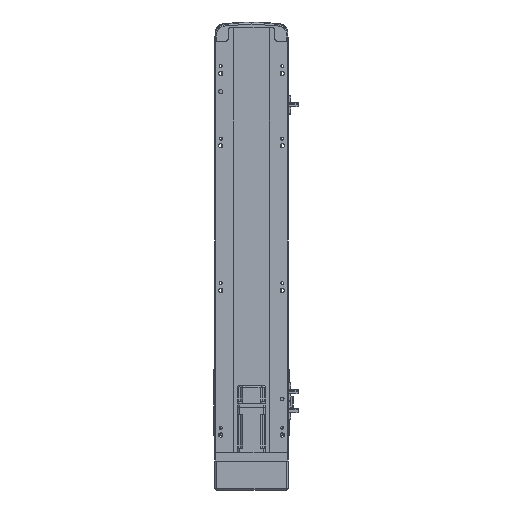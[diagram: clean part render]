
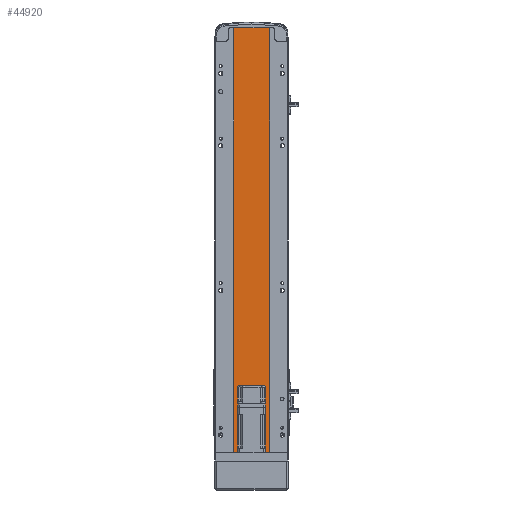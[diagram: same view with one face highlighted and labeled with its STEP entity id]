
A CAD part, front view. The second image highlights one B-rep face of the part: STEP entity #44920.
In plain terms, the highlighted planar face has unit normal (0, -1, 0).
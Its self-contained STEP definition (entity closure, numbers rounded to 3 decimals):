
#6390 = AXIS2_PLACEMENT_3D ( 'NONE', #7950, #12607, #57262 ) ;
#7950 = CARTESIAN_POINT ( 'NONE',  ( 0., 2., 587. ) ) ;
#9701 = VERTEX_POINT ( 'NONE', #11745 ) ;
#11090 = DIRECTION ( 'NONE',  ( 1., 0., 0. ) ) ;
#11745 = CARTESIAN_POINT ( 'NONE',  ( 24.5, 2., 587. ) ) ;
#12607 = DIRECTION ( 'NONE',  ( 0., 1., 0. ) ) ;
#13405 = LINE ( 'NONE', #44433, #57318 ) ;
#14894 = ORIENTED_EDGE ( 'NONE', *, *, #35114, .F. ) ;
#15523 = LINE ( 'NONE', #19402, #21187 ) ;
#15866 = LINE ( 'NONE', #54856, #56984 ) ;
#17096 = CARTESIAN_POINT ( 'NONE',  ( 24.5, 2., 0. ) ) ;
#19402 = CARTESIAN_POINT ( 'NONE',  ( 24.5, 2., 587. ) ) ;
#21187 = VECTOR ( 'NONE', #28580, 1000. ) ;
#22209 = EDGE_CURVE ( 'NONE', #49614, #9701, #13405, .T. ) ;
#22455 = EDGE_CURVE ( 'NONE', #37932, #50375, #41236, .T. ) ;
#24527 = CARTESIAN_POINT ( 'NONE',  ( 0., 2., 0. ) ) ;
#24797 = ORIENTED_EDGE ( 'NONE', *, *, #22455, .T. ) ;
#25802 = EDGE_CURVE ( 'NONE', #49614, #37932, #15866, .T. ) ;
#28580 = DIRECTION ( 'NONE',  ( 0., 0., -1. ) ) ;
#28962 = CARTESIAN_POINT ( 'NONE',  ( -24.5, 2., 587. ) ) ;
#30545 = DIRECTION ( 'NONE',  ( 1., 0., 0. ) ) ;
#32115 = DIRECTION ( 'NONE',  ( 0., 0., -1. ) ) ;
#35114 = EDGE_CURVE ( 'NONE', #9701, #50375, #15523, .T. ) ;
#35967 = EDGE_LOOP ( 'NONE', ( #24797, #14894, #37627, #40663 ) ) ;
#37627 = ORIENTED_EDGE ( 'NONE', *, *, #22209, .F. ) ;
#37932 = VERTEX_POINT ( 'NONE', #51622 ) ;
#38459 = VECTOR ( 'NONE', #30545, 1000. ) ;
#40663 = ORIENTED_EDGE ( 'NONE', *, *, #25802, .T. ) ;
#41236 = LINE ( 'NONE', #24527, #38459 ) ;
#43684 = FACE_OUTER_BOUND ( 'NONE', #35967, .T. ) ;
#44433 = CARTESIAN_POINT ( 'NONE',  ( -24.5, 2., 587. ) ) ;
#44920 = ADVANCED_FACE ( 'NONE', ( #43684 ), #52361, .F. ) ;
#49614 = VERTEX_POINT ( 'NONE', #28962 ) ;
#50375 = VERTEX_POINT ( 'NONE', #17096 ) ;
#51622 = CARTESIAN_POINT ( 'NONE',  ( -24.5, 2., 0. ) ) ;
#52361 = PLANE ( 'NONE',  #6390 ) ;
#54856 = CARTESIAN_POINT ( 'NONE',  ( -24.5, 2., 587. ) ) ;
#56984 = VECTOR ( 'NONE', #32115, 1000. ) ;
#57262 = DIRECTION ( 'NONE',  ( 0., 0., 1. ) ) ;
#57318 = VECTOR ( 'NONE', #11090, 1000. ) ;
